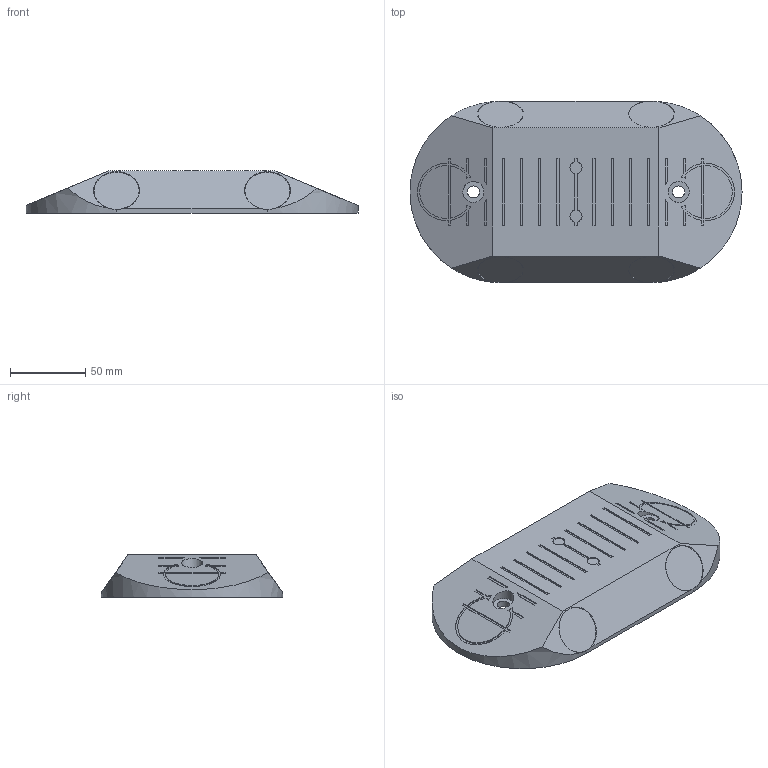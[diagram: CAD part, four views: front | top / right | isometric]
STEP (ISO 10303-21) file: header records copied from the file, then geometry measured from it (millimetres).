
FILE_DESCRIPTION(('FreeCAD Model'),'2;1');
FILE_NAME('Open CASCADE Shape Model','2026-10-09T00:27:59',('FreeCAD'),( 'FreeCAD'),'Open CASCADE STEP processor 7.8','FreeCAD','Unknown');
FILE_SCHEMA(('AUTOMOTIVE_DESIGN { 1 0 10303 214 1 1 1 1 }'));
Length unit declared in the file: millimetre
Products named in the file (1): Open CASCADE STEP translator 7.8 1
Bounding box: 220 x 120 x 28 mm (x, y, z)
Volume: 94362.9 mm3; surface area: 74388.6 mm2
Topology: 5 solids, 5 shells, 218 faces, 578 edges, 392 vertices
Faces by surface type: plane 160, cylinder 58
Full cylindrical faces by diameter (mm): 8 x2, 14 x2, 20 x2, 30 x4, 30.4 x4
Entity records: 6880 total; most frequent: CARTESIAN_POINT 1261, DIRECTION 1180, ORIENTED_EDGE 1156, EDGE_CURVE 578, LINE 398, VECTOR 398, VERTEX_POINT 392, AXIS2_PLACEMENT_3D 391
